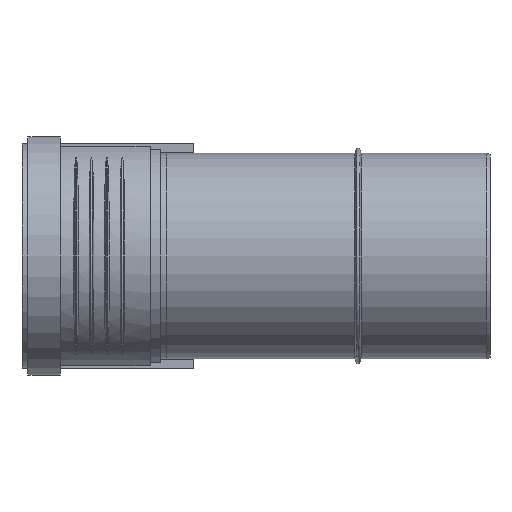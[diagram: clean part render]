
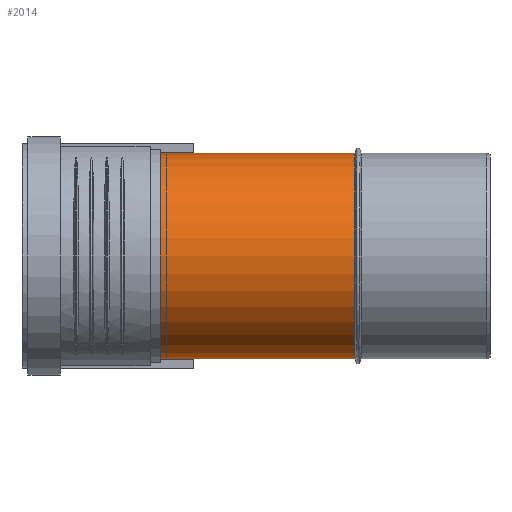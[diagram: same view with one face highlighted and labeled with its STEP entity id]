
A CAD part, left-side view. The second image highlights one B-rep face of the part: STEP entity #2014.
In plain terms, the highlighted cylindrical face has radius 55.1 mm (diameter 110.2 mm), a full revolution.
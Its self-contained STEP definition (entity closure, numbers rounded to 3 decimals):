
#263=CYLINDRICAL_SURFACE($,#2159,55.1);
#416=B_SPLINE_CURVE_WITH_KNOTS($,3,(#2991,#2992,#2993,#2994,#2995,#2996),
 .UNSPECIFIED.,.F.,.F.,(4,2,4),(6.574,6.792,7.01),
 .UNSPECIFIED.);
#417=B_SPLINE_CURVE_WITH_KNOTS($,3,(#3003,#3004,#3005,#3006,#3007,#3008,
#3009,#3010,#3011,#3012,#3013,#3014,#3015,#3016,#3017,#3018,#3019,#3020,
#3021,#3022,#3023,#3024,#3025,#3026,#3027,#3028,#3029,#3030,#3031,#3032,
#3033,#3034,#3035,#3036,#3037,#3038,#3039,#3040,#3041,#3042,#3043,#3044,
#3045,#3046,#3047,#3048,#3049,#3050,#3051,#3052,#3053,#3054,#3055,#3056,
#3057,#3058,#3059,#3060,#3061,#3062,#3063,#3064,#3065),.UNSPECIFIED.,.F.,
 .F.,(4,2,2,2,2,2,2,2,2,2,2,2,2,2,2,2,2,2,2,2,2,2,2,3,2,2,2,2,2,2,4),(8.467,
9.006,9.766,11.286,12.587,13.889,
15.191,16.493,17.316,18.139,18.963,
19.786,20.493,21.2,21.908,22.615,
23.322,24.029,24.736,25.443,26.267,
27.09,27.913,28.737,30.038,31.34,
32.642,33.944,35.463,36.223,36.763),
 .UNSPECIFIED.);
#530=FACE_BOUND($,#726,.T.);
#531=FACE_BOUND($,#727,.T.);
#600=FACE_OUTER_BOUND($,#725,.T.);
#725=EDGE_LOOP($,(#1484));
#726=EDGE_LOOP($,(#1485));
#727=EDGE_LOOP($,(#1486,#1487));
#892=CIRCLE($,#2145,55.1);
#898=CIRCLE($,#2157,55.1);
#991=VERTEX_POINT($,#2980);
#994=VERTEX_POINT($,#2989);
#995=VERTEX_POINT($,#2990);
#997=VERTEX_POINT($,#3067);
#1194=EDGE_CURVE($,#991,#991,#892,.T.);
#1197=EDGE_CURVE($,#994,#995,#416,.T.);
#1201=EDGE_CURVE($,#995,#994,#417,.T.);
#1202=EDGE_CURVE($,#997,#997,#898,.T.);
#1484=ORIENTED_EDGE($,*,*,#1194,.T.);
#1485=ORIENTED_EDGE($,*,*,#1202,.T.);
#1486=ORIENTED_EDGE($,*,*,#1197,.T.);
#1487=ORIENTED_EDGE($,*,*,#1201,.T.);
#2014=ADVANCED_FACE($,(#600,#530,#531),#263,.T.);
#2145=AXIS2_PLACEMENT_3D($,#2981,#2388,#2389);
#2157=AXIS2_PLACEMENT_3D($,#3068,#2412,#2413);
#2159=AXIS2_PLACEMENT_3D($,#3070,#2416,#2417);
#2388=DIRECTION('center_axis',(0.,1.,0.));
#2389=DIRECTION('ref_axis',(1.,0.,0.));
#2412=DIRECTION('center_axis',(0.,-1.,0.));
#2413=DIRECTION('ref_axis',(1.,0.,0.));
#2416=DIRECTION('center_axis',(0.,1.,0.));
#2417=DIRECTION('ref_axis',(1.,0.,0.));
#2980=CARTESIAN_POINT('',(-55.1,72.4,0.));
#2981=CARTESIAN_POINT('Origin',(0.,72.4,0.));
#2989=CARTESIAN_POINT('',(55.057,178.653,2.17));
#2990=CARTESIAN_POINT('',(55.057,178.653,-2.17));
#2991=CARTESIAN_POINT('Ctrl Pts',(55.057,178.653,2.17));
#2992=CARTESIAN_POINT('Ctrl Pts',(55.086,178.74,1.451));
#2993=CARTESIAN_POINT('Ctrl Pts',(55.1,178.784,0.727));
#2994=CARTESIAN_POINT('Ctrl Pts',(55.1,178.784,-0.727));
#2995=CARTESIAN_POINT('Ctrl Pts',(55.086,178.74,-1.451));
#2996=CARTESIAN_POINT('Ctrl Pts',(55.057,178.653,-2.17));
#3003=CARTESIAN_POINT('Ctrl Pts',(55.057,178.653,-2.17));
#3004=CARTESIAN_POINT('Ctrl Pts',(54.988,178.441,-3.918));
#3005=CARTESIAN_POINT('Ctrl Pts',(54.839,177.981,-5.603));
#3006=CARTESIAN_POINT('Ctrl Pts',(54.325,176.391,-9.492));
#3007=CARTESIAN_POINT('Ctrl Pts',(53.898,175.065,-11.627));
#3008=CARTESIAN_POINT('Ctrl Pts',(52.385,170.293,-17.564));
#3009=CARTESIAN_POINT('Ctrl Pts',(51.069,166.045,-20.886));
#3010=CARTESIAN_POINT('Ctrl Pts',(48.793,158.304,-25.717));
#3011=CARTESIAN_POINT('Ctrl Pts',(47.686,154.395,-27.679));
#3012=CARTESIAN_POINT('Ctrl Pts',(45.527,146.167,-31.103));
#3013=CARTESIAN_POINT('Ctrl Pts',(44.474,141.847,-32.564));
#3014=CARTESIAN_POINT('Ctrl Pts',(42.607,133.029,-34.971));
#3015=CARTESIAN_POINT('Ctrl Pts',(41.794,128.534,-35.917));
#3016=CARTESIAN_POINT('Ctrl Pts',(40.628,119.582,-37.231));
#3017=CARTESIAN_POINT('Ctrl Pts',(40.277,115.126,-37.6));
#3018=CARTESIAN_POINT('Ctrl Pts',(40.277,108.043,-37.6));
#3019=CARTESIAN_POINT('Ctrl Pts',(40.421,105.182,-37.449));
#3020=CARTESIAN_POINT('Ctrl Pts',(41.116,99.529,-36.685));
#3021=CARTESIAN_POINT('Ctrl Pts',(41.67,96.738,-36.069));
#3022=CARTESIAN_POINT('Ctrl Pts',(43.16,91.505,-34.272));
#3023=CARTESIAN_POINT('Ctrl Pts',(44.099,89.052,-33.083));
#3024=CARTESIAN_POINT('Ctrl Pts',(46.151,84.667,-30.154));
#3025=CARTESIAN_POINT('Ctrl Pts',(47.261,82.732,-28.413));
#3026=CARTESIAN_POINT('Ctrl Pts',(49.222,79.671,-24.834));
#3027=CARTESIAN_POINT('Ctrl Pts',(50.136,78.396,-22.962));
#3028=CARTESIAN_POINT('Ctrl Pts',(51.812,76.205,-18.878));
#3029=CARTESIAN_POINT('Ctrl Pts',(52.573,75.287,-16.667));
#3030=CARTESIAN_POINT('Ctrl Pts',(53.819,73.836,-12.05));
#3031=CARTESIAN_POINT('Ctrl Pts',(54.305,73.3,-9.641));
#3032=CARTESIAN_POINT('Ctrl Pts',(54.945,72.6,-4.795));
#3033=CARTESIAN_POINT('Ctrl Pts',(55.1,72.436,-2.357));
#3034=CARTESIAN_POINT('Ctrl Pts',(55.1,72.436,2.357));
#3035=CARTESIAN_POINT('Ctrl Pts',(54.945,72.6,4.795));
#3036=CARTESIAN_POINT('Ctrl Pts',(54.305,73.3,9.641));
#3037=CARTESIAN_POINT('Ctrl Pts',(53.819,73.836,12.05));
#3038=CARTESIAN_POINT('Ctrl Pts',(52.573,75.287,16.667));
#3039=CARTESIAN_POINT('Ctrl Pts',(51.812,76.205,18.878));
#3040=CARTESIAN_POINT('Ctrl Pts',(50.136,78.396,22.962));
#3041=CARTESIAN_POINT('Ctrl Pts',(49.222,79.671,24.834));
#3042=CARTESIAN_POINT('Ctrl Pts',(47.261,82.732,28.413));
#3043=CARTESIAN_POINT('Ctrl Pts',(46.151,84.667,30.154));
#3044=CARTESIAN_POINT('Ctrl Pts',(44.099,89.052,33.083));
#3045=CARTESIAN_POINT('Ctrl Pts',(43.16,91.505,34.272));
#3046=CARTESIAN_POINT('Ctrl Pts',(41.67,96.738,36.069));
#3047=CARTESIAN_POINT('Ctrl Pts',(41.116,99.529,36.685));
#3048=CARTESIAN_POINT('Ctrl Pts',(40.421,105.182,37.449));
#3049=CARTESIAN_POINT('Ctrl Pts',(40.277,108.043,37.6));
#3050=CARTESIAN_POINT('Ctrl Pts',(40.277,110.787,37.6));
#3051=CARTESIAN_POINT('Ctrl Pts',(40.277,115.126,37.6));
#3052=CARTESIAN_POINT('Ctrl Pts',(40.628,119.582,37.231));
#3053=CARTESIAN_POINT('Ctrl Pts',(41.794,128.534,35.917));
#3054=CARTESIAN_POINT('Ctrl Pts',(42.607,133.029,34.971));
#3055=CARTESIAN_POINT('Ctrl Pts',(44.474,141.847,32.564));
#3056=CARTESIAN_POINT('Ctrl Pts',(45.527,146.167,31.103));
#3057=CARTESIAN_POINT('Ctrl Pts',(47.686,154.395,27.679));
#3058=CARTESIAN_POINT('Ctrl Pts',(48.793,158.304,25.717));
#3059=CARTESIAN_POINT('Ctrl Pts',(51.069,166.045,20.886));
#3060=CARTESIAN_POINT('Ctrl Pts',(52.385,170.293,17.564));
#3061=CARTESIAN_POINT('Ctrl Pts',(53.898,175.065,11.627));
#3062=CARTESIAN_POINT('Ctrl Pts',(54.325,176.391,9.492));
#3063=CARTESIAN_POINT('Ctrl Pts',(54.839,177.981,5.603));
#3064=CARTESIAN_POINT('Ctrl Pts',(54.988,178.441,3.918));
#3065=CARTESIAN_POINT('Ctrl Pts',(55.057,178.653,2.17));
#3067=CARTESIAN_POINT('',(55.1,180.31,0.));
#3068=CARTESIAN_POINT('Origin',(0.,180.31,0.));
#3070=CARTESIAN_POINT('Origin',(0.,0.,0.));
